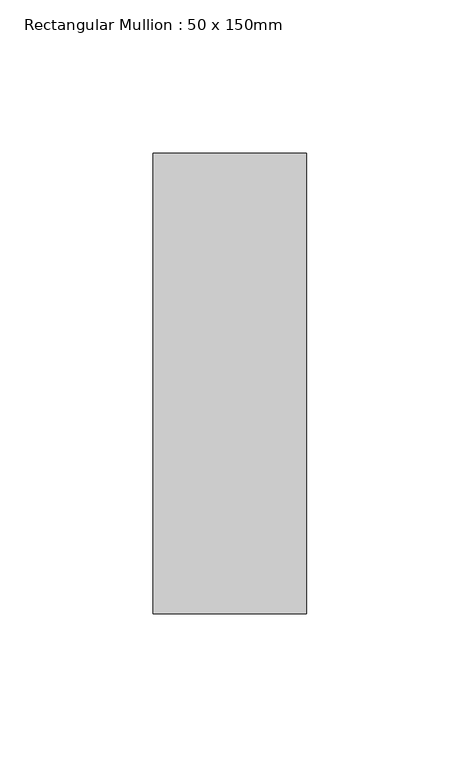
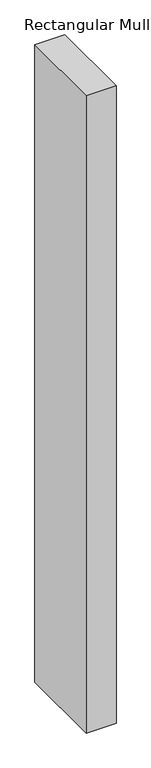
"""IFC4 building model written with IfcOpenShell, lengths in millimetres: member geometry, Rectangular Mullion : 50 x 150mm."""

from ifc_helpers import new_model, si_unit, frame, origin, place, context, project, spatial, polyline, outline, extrude, source, transform, mapped, element, save


def rectangular_mullion_50_x_150mm_9d6c7913(model_context):
    return source(origin(), model_context, "Body", "SweptSolid", [
        extrude(outline(polyline([(0.0, 75.0), (0.0, -75.0), (-50.0, -75.0), (-50.0, 75.0), (0.0, 75.0)])), frame((0.0, 0.0, -1134.6078479), z_axis=(0.0, 0.0, 1.0), x_axis=(1.0, 0.0, 0.0)), (0.0, 0.0, 1.0), 1134.6078479),
    ])


if __name__ == "__main__":
    model = new_model("IFC4")
    model_context = context("Model", 3, world=origin())
    ifc_project = project(units=[si_unit("LENGTHUNIT", "METRE", prefix="MILLI")], contexts=[model_context])
    site = spatial("IfcSite", under=ifc_project)
    building = spatial("IfcBuilding", under=site)
    placement = place(None, origin())
    rectangular_mullion_50_x_150mm_shape = rectangular_mullion_50_x_150mm_9d6c7913(model_context)
    element("IfcMember", 1, ObjectType="Rectangular Mullion : 50 x 150mm", at=placement, inside=building, context=model_context, shape_type="MappedRepresentation", body=[
        mapped(rectangular_mullion_50_x_150mm_shape, transform((0.0, 0.0, 0.0), x_axis=(1.0, 0.0, 0.0), y_axis=(0.0, 1.0, 0.0), z_axis=(0.0, 0.0, 1.0))),
    ])
    save(model, "model.ifc")
